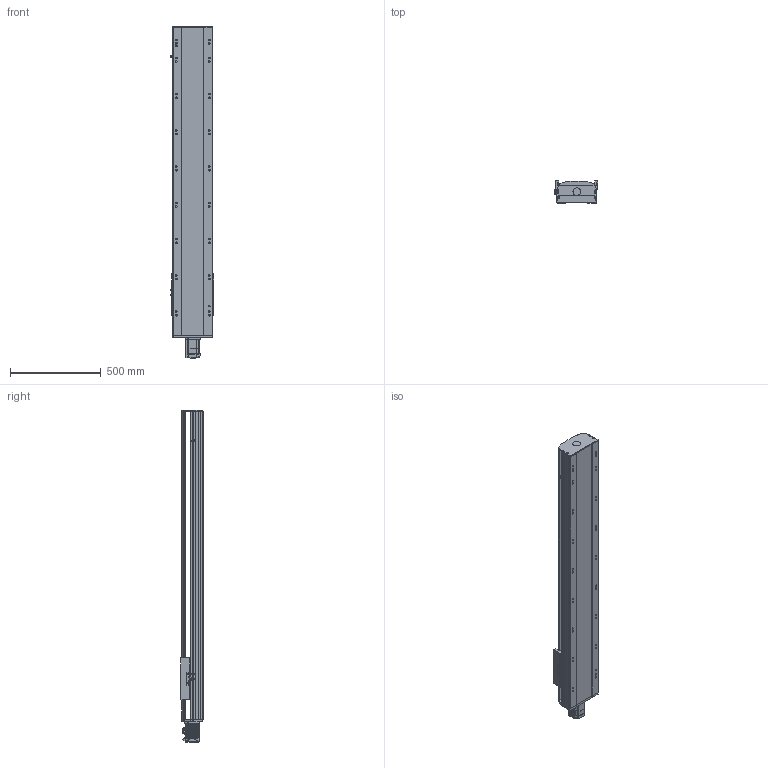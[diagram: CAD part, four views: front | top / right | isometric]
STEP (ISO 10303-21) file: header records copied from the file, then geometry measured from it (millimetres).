
FILE_DESCRIPTION (( 'STEP AP214' ), '1' );
FILE_NAME ('QTH22-1300-BC-P75.STEP', '2021-11-13T10:07:01', ( '' ), ( '' ), 'SwSTEP 2.0', 'SolidWorks 2020', '' );
FILE_SCHEMA (( 'AUTOMOTIVE_DESIGN' ));
Length unit declared in the file: millimetre
Products named in the file (6): 葩璃 pm-t65-672^QTH22-BC-P75; 葩璃 QTH22-BC-002 奻裔MZ-220-02^QTH22-BC-P75; 葩璃 MSMD08PC_P75^QTH22-BC-P75; QTH22-1300-BC-P75; 葩璃 QTH22-BC-005 賑釱MZ-220-03^QTH22-BC-P75_SFA25; 葩璃 QTH22-BC-001 菁釱MZ-220-01^QTH22-BC-P75
Assembly tree (7 placements, depth 2):
  QTH22-1300-BC-P75
    葩璃 QTH22-BC-001 菁釱MZ-220-01^QTH22-BC-P75
    葩璃 QTH22-BC-002 奻裔MZ-220-02^QTH22-BC-P75
    葩璃 QTH22-BC-005 賑釱MZ-220-03^QTH22-BC-P75_SFA25
    葩璃 pm-t65-672^QTH22-BC-P75  x3
    葩璃 MSMD08PC_P75^QTH22-BC-P75
Bounding box: 238.7 x 122 x 1832 mm (x, y, z)
Volume: 24176416.6 mm3; surface area: 2315049.5 mm2
Topology: 10 solids, 10 shells, 1542 faces, 4113 edges, 2649 vertices
Faces by surface type: plane 895, cylinder 551, cone 82, bspline 14
Entity records: 43167 total; most frequent: CARTESIAN_POINT 8655, DIRECTION 7002, ORIENTED_EDGE 6802, EDGE_CURVE 3401, AXIS2_PLACEMENT_3D 2357, VECTOR 2288, LINE 2288, VERTEX_POINT 2225
